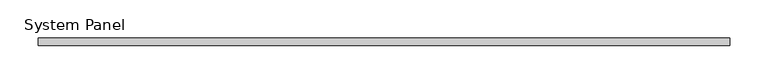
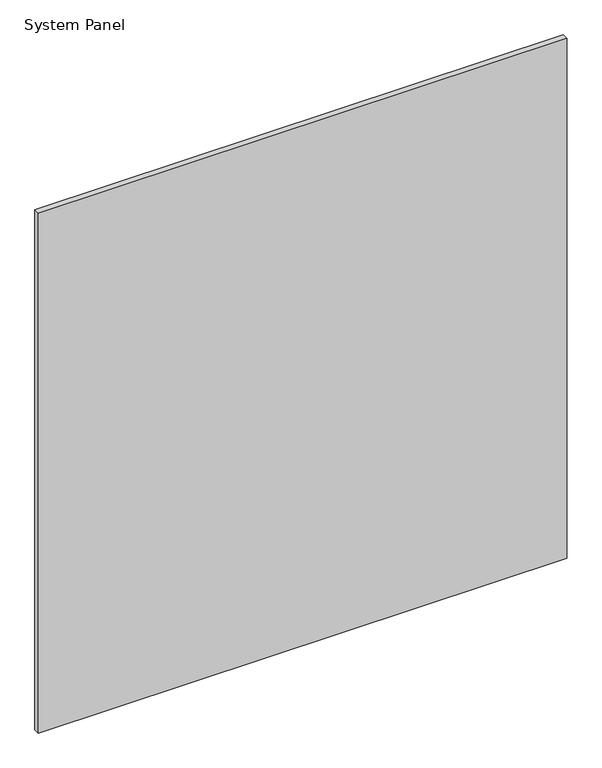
"""IFC4 building model written with IfcOpenShell, lengths in millimetres: plate geometry, System Panel : MALLA ACMA."""

import ifcopenshell
import ifcopenshell.guid

model = None  # the IFC model being written
_history = None  # IfcOwnerHistory: only IFC2X3 demands one
_inside = {}  # id of a spatial element -> (the spatial element, [elements in it])
_under = {}  # id of a project, library or spatial element -> (it, [spatial elements below it])
_declared = {}  # id of a project -> (the project, [libraries it declares])
_typed = {}  # id of a type object -> (the type object, [elements of that type])
_made_of = {}  # id of a material, layer set ... -> (it, [elements and type objects made of it])


def new_model(schema):
    """Start an empty IFC model of exactly this schema.

    Asked for "IFC4X3", IfcOpenShell would pick the latest addendum, in which some entities
    have other attributes; the version numbers below select the first issue.
    IFC2X3 requires an IfcOwnerHistory on every rooted entity: one is made here for all.
    """
    global model, _history
    if schema == "IFC4X3":
        model = ifcopenshell.file(schema_version=(4, 3, 0, 0))
    else:
        model = ifcopenshell.file(schema=schema)
    _inside.clear()
    _under.clear()
    _declared.clear()
    _typed.clear()
    _made_of.clear()
    _history = None
    if model.schema == "IFC2X3":
        org = make("IfcOrganization", Name="unknown")
        user = make(
            "IfcPersonAndOrganization",
            ThePerson=make("IfcPerson", FamilyName="unknown"),
            TheOrganization=org,
        )
        app = make(
            "IfcApplication",
            ApplicationDeveloper=org,
            Version="unknown",
            ApplicationFullName="unknown",
            ApplicationIdentifier="unknown",
        )
        _history = make(
            "IfcOwnerHistory",
            OwningUser=user,
            OwningApplication=app,
            ChangeAction="ADDED",
            CreationDate=0,
        )
    return model


def make(cls, **values):
    """One entity of the class cls with the attributes given. An attribute that is None is left unset."""
    return model.create_entity(
        cls, **{name: value for name, value in values.items() if value is not None}
    )


def rooted(cls, **values):
    """An entity with a GlobalId (a new one), such as an element, a storey or a relation."""
    return make(cls, GlobalId=ifcopenshell.guid.new(), OwnerHistory=_history, **values)


def si_unit(unit_type, name, prefix=None):
    """IfcSIUnit, for example si_unit("LENGTHUNIT", "METRE", prefix="MILLI")."""
    return make("IfcSIUnit", UnitType=unit_type, Prefix=prefix, Name=name)


def assignment(units):
    """IfcUnitAssignment: the units of a project."""
    return None if units is None else make("IfcUnitAssignment", Units=units)


def point(xyz):
    """IfcCartesianPoint."""
    return None if xyz is None else make("IfcCartesianPoint", Coordinates=xyz)


def direction(xyz):
    """IfcDirection."""
    return None if xyz is None else make("IfcDirection", DirectionRatios=xyz)


def frame(location, z_axis=None, x_axis=None):
    """IfcAxis2Placement3D, a coordinate frame: its origin and axes. An axis left out is left unset."""
    return make(
        "IfcAxis2Placement3D",
        Location=point(location),
        Axis=direction(z_axis),
        RefDirection=direction(x_axis),
    )


def origin():
    """The frame at (0, 0, 0) with its axes left unset."""
    return frame((0.0, 0.0, 0.0))


def origin_with_axes():
    """The frame at (0, 0, 0) with the z axis (0, 0, 1) and the x axis (1, 0, 0) written out."""
    return frame((0.0, 0.0, 0.0), z_axis=(0.0, 0.0, 1.0), x_axis=(1.0, 0.0, 0.0))


def place(relative_to, where):
    """IfcLocalPlacement: puts the frame where relative to a parent placement (None: the world)."""
    return make(
        "IfcLocalPlacement", PlacementRelTo=relative_to, RelativePlacement=where
    )


def context(
    kind, dimensions, precision=None, world=None, true_north=None, identifier=None
):
    """IfcGeometricRepresentationContext, for example the 3D "Model" context."""
    return make(
        "IfcGeometricRepresentationContext",
        ContextIdentifier=identifier,
        ContextType=kind,
        CoordinateSpaceDimension=dimensions,
        Precision=precision,
        WorldCoordinateSystem=world,
        TrueNorth=true_north,
    )


def project(units=None, contexts=None):
    """IfcProject with its units and contexts."""
    return rooted(
        "IfcProject",
        Name="project",
        RepresentationContexts=contexts,
        UnitsInContext=assignment(units),
    )


def spatial(cls, under=None, at=None, **own):
    """A site, building, storey or space (cls), placed at a placement, below another one or the project."""
    s = rooted(cls, ObjectPlacement=at, **own)
    if under is not None:
        _under.setdefault(under.id(), (under, []))[1].append(s)
    return s


def polyline(points):
    """IfcPolyline through the points."""
    return make("IfcPolyline", Points=[point(p) for p in points])


def outline(outer, holes=None, kind="AREA"):
    """IfcArbitraryClosedProfileDef: a profile drawn as a closed curve; with holes, ...WithVoids."""
    if holes is None:
        return make("IfcArbitraryClosedProfileDef", ProfileType=kind, OuterCurve=outer)
    return make(
        "IfcArbitraryProfileDefWithVoids",
        ProfileType=kind,
        OuterCurve=outer,
        InnerCurves=holes,
    )


def extrude(swept, where, along, depth):
    """IfcExtrudedAreaSolid: the profile swept, set in the frame where, extruded along a direction by depth."""
    return make(
        "IfcExtrudedAreaSolid",
        SweptArea=swept,
        Position=where,
        ExtrudedDirection=direction(along),
        Depth=depth,
    )


def shape(context_of_items, identifier, shape_type, items):
    """IfcShapeRepresentation: the items that make up one representation, for example the "Body"."""
    return make(
        "IfcShapeRepresentation",
        ContextOfItems=context_of_items,
        RepresentationIdentifier=identifier,
        RepresentationType=shape_type,
        Items=items,
    )


def source(mapping_origin, context_of_items, identifier, shape_type, items):
    """IfcRepresentationMap: a shape defined once, which mapped items show again and again."""
    return make(
        "IfcRepresentationMap",
        MappingOrigin=mapping_origin,
        MappedRepresentation=shape(context_of_items, identifier, shape_type, items),
    )


def transform(
    local_origin,
    x_axis=None,
    y_axis=None,
    z_axis=None,
    scale=None,
    scale2=None,
    scale3=None,
    uniform=True,
):
    """IfcCartesianTransformationOperator3D, or its non-uniform kind. x_axis, y_axis, z_axis: its Axis1, 2, 3."""
    if uniform:
        return make(
            "IfcCartesianTransformationOperator3D",
            Axis1=direction(x_axis),
            Axis2=direction(y_axis),
            LocalOrigin=point(local_origin),
            Scale=scale,
            Axis3=direction(z_axis),
        )
    return make(
        "IfcCartesianTransformationOperator3DnonUniform",
        Axis1=direction(x_axis),
        Axis2=direction(y_axis),
        LocalOrigin=point(local_origin),
        Scale=scale,
        Axis3=direction(z_axis),
        Scale2=scale2,
        Scale3=scale3,
    )


def mapped(mapping_source, mapping_target):
    """IfcMappedItem: shows the shape of a source again, moved by a transform."""
    return make(
        "IfcMappedItem", MappingSource=mapping_source, MappingTarget=mapping_target
    )


def made_of(thing, what):
    """Note that an element or type object is made of a material, layer set ...; save() writes the relation."""
    if what is not None:
        _made_of.setdefault(what.id(), (what, []))[1].append(thing)
    return thing


def element(
    cls,
    number,
    at=None,
    inside=None,
    cuts=None,
    type_object=None,
    material=None,
    context=None,
    identifier="Body",
    shape_type=None,
    held_by="IfcProductDefinitionShape",
    body=None,
    shapes=None,
    **own,
):
    """One element of the class cls, such as IfcWall. Its Tag is "e" and its number.

    at: its placement. inside: the storey or other place that contains it. cuts: it is an
    opening in that element (IfcRelVoidsElement). A single representation is given by context,
    identifier, shape_type and body (its items); several are given by shapes. held_by: the class
    of the entity that holds the representations. save() writes the other relations.
    """
    e = rooted(cls, Tag="e%d" % number, ObjectPlacement=at, **own)
    if body is not None:
        shapes = [shape(context, identifier, shape_type, body)]
    if shapes is not None:
        e.Representation = make(held_by, Representations=shapes)
    if inside is not None:
        _inside.setdefault(inside.id(), (inside, []))[1].append(e)
    if cuts is not None:
        rooted(
            "IfcRelVoidsElement", RelatingBuildingElement=cuts, RelatedOpeningElement=e
        )
    if type_object is not None:
        _typed.setdefault(type_object.id(), (type_object, []))[1].append(e)
    return made_of(e, material)


def aggregate(whole, parts):
    """IfcRelAggregates: a whole, such as a stair, and the parts it consists of."""
    return rooted("IfcRelAggregates", RelatingObject=whole, RelatedObjects=parts)


def save(model, path):
    """Write the relations noted so far, then the file.

    IfcRelAggregates (storeys below a building ...), IfcRelContainedInSpatialStructure (elements
    in a storey), IfcRelDefinesByType, IfcRelAssociatesMaterial and IfcRelDeclares: one each for
    every whole, place, type object, material and project.
    """
    for whole, parts in _under.values():
        aggregate(whole, parts)
    for where, things in _inside.values():
        rooted(
            "IfcRelContainedInSpatialStructure",
            RelatedElements=things,
            RelatingStructure=where,
        )
    for kind, things in _typed.values():
        rooted("IfcRelDefinesByType", RelatedObjects=things, RelatingType=kind)
    for what, things in _made_of.values():
        rooted("IfcRelAssociatesMaterial", RelatedObjects=things, RelatingMaterial=what)
    for by, libraries in _declared.values():
        rooted("IfcRelDeclares", RelatingContext=by, RelatedDefinitions=libraries)
    model.write(path)


def system_panel_af5bab94(model_context):
    return source(origin(), model_context, "Body", "SweptSolid", [
        extrude(outline(polyline([(452.087351, -5.0), (-452.087351, -5.0), (-452.087351, 5.0), (452.087351, 5.0), (452.087351, -5.0)])), origin_with_axes(), (0.0, 0.0, 1.0), 940.0),
    ])


if __name__ == "__main__":
    model = new_model("IFC4")
    model_context = context("Model", 3, world=origin())
    ifc_project = project(units=[si_unit("LENGTHUNIT", "METRE", prefix="MILLI")], contexts=[model_context])
    site = spatial("IfcSite", under=ifc_project)
    building = spatial("IfcBuilding", under=site)
    placement = place(None, origin())
    system_panel_shape = system_panel_af5bab94(model_context)
    element("IfcPlate", 1, ObjectType="System Panel : MALLA ACMA", at=placement, inside=building, context=model_context, shape_type="MappedRepresentation", body=[
        mapped(system_panel_shape, transform((0.0, 0.0, 0.0), x_axis=(1.0, 0.0, 0.0), y_axis=(0.0, 1.0, 0.0), z_axis=(0.0, 0.0, 1.0))),
    ])
    save(model, "model.ifc")
